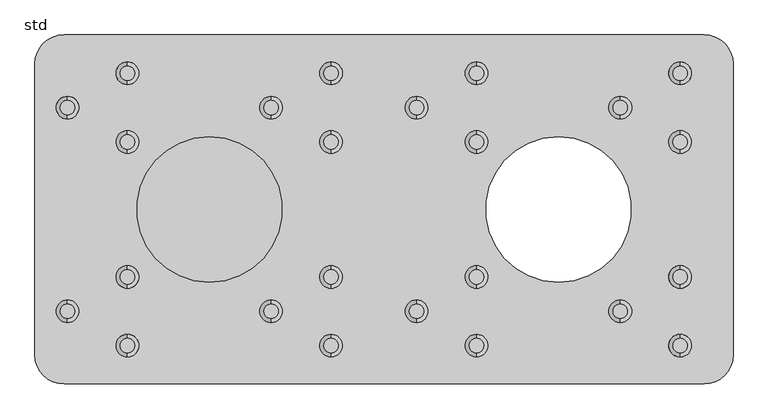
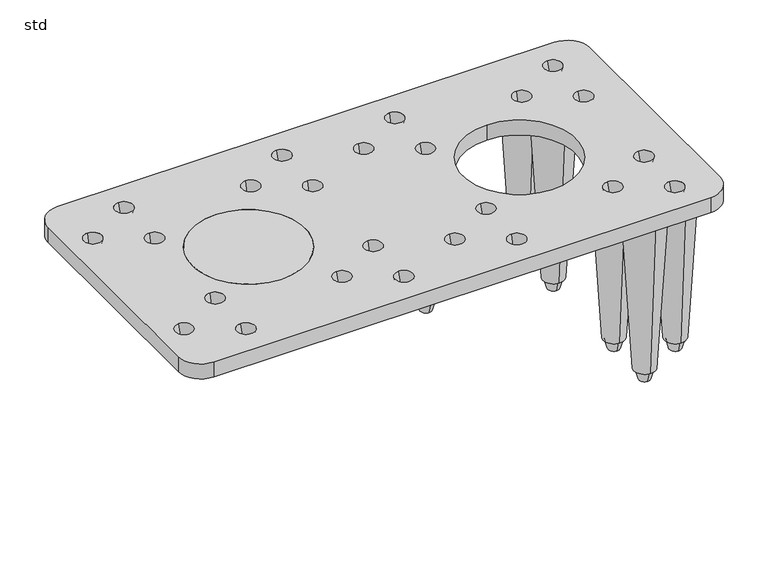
"""IFC4 building model written with IfcOpenShell, lengths in millimetres: unitary equipment geometry, Z_ME_UN_Aquacell_NG_Infiltration_Unit_Wavin_(nested) : std."""

from ifc_helpers import new_model, si_unit, point, frame, frame_2d, origin, place, context, project, spatial, polyline, circle_curve, trimmed, segment, composite_curve, outline, extrude, source, transform, mapped, element, save
from ifc_brep_helpers import plane_surface, cylinder_surface, revolved_surface, advanced_brep


def std_5641c3e3(model_context):
    return source(origin(), model_context, "Body", "SolidModel", [
        advanced_brep(
        [(794.0, 487.65, 175.0), (794.0, 462.35, 175.0), (794.0, 494.5, 200.0), (794.0, 455.5, 200.0)],
        [
            (0, 1, circle_curve(frame((794.0, 475.0, 175.0), z_axis=(0.0, 0.0, -1.0), x_axis=(0.0, 1.0, 0.0)), 12.65)),
            (1, 0, circle_curve(frame((794.0, 475.0, 175.0), z_axis=(0.0, 0.0, -1.0), x_axis=(0.0, -1.0, 0.0)), 12.65)),
            (2, 3, circle_curve(frame((794.0, 475.0, 200.0), z_axis=(0.0, 0.0, 1.0), x_axis=(0.0, -1.0, 0.0)), 19.5)),
            (3, 2, circle_curve(frame((794.0, 475.0, 200.0), z_axis=(0.0, 0.0, 1.0), x_axis=(0.0, 1.0, 0.0)), 19.5)),
            (3, 1),
            (0, 2),
        ],
        [
            plane_surface(frame((794.0, 475.0, 175.0), z_axis=(0.0, 0.0, -1.0), x_axis=(1.0, 0.0, 0.0))),
            plane_surface(frame((794.0, 475.0, 200.0), z_axis=(0.0, 0.0, 1.0), x_axis=(1.0, 0.0, 0.0))),
            revolved_surface(polyline([(794.0, 487.6499999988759, 175.0), (794.0, 494.5, 200.0)]), (794.0, 475.0, 128.8321168), (0.0, 0.0, 1.0)),
            revolved_surface(polyline([(794.0, 462.3500000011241, 175.0), (794.0, 455.5, 200.0)]), (794.0, 475.0, 128.8321168), (0.0, 0.0, 1.0)),
        ],
        [
            (0, [[1, 2]]),
            (1, [[3, 4]]),
            (2, [[-4, 5, -1, 6]]),
            (3, [[-3, -6, -2, -5]]),
        ],
    ),
        advanced_brep(
        [(794.0, 498.65, 200.0), (794.0, 451.35, 200.0), (794.0, 520.0, 565.0), (794.0, 430.0, 565.0)],
        [
            (0, 1, circle_curve(frame((794.0, 475.0, 200.0), z_axis=(0.0, 0.0, -1.0), x_axis=(0.0, 1.0, 0.0)), 23.65)),
            (1, 0, circle_curve(frame((794.0, 475.0, 200.0), z_axis=(0.0, 0.0, -1.0), x_axis=(0.0, -1.0, 0.0)), 23.65)),
            (2, 3, circle_curve(frame((794.0, 475.0, 565.0), z_axis=(0.0, 0.0, 1.0), x_axis=(0.0, -1.0, 0.0)), 45.0)),
            (3, 2, circle_curve(frame((794.0, 475.0, 565.0), z_axis=(0.0, 0.0, 1.0), x_axis=(0.0, 1.0, 0.0)), 45.0)),
            (3, 1),
            (0, 2),
        ],
        [
            plane_surface(frame((794.0, 475.0, 200.0), z_axis=(0.0, 0.0, -1.0), x_axis=(1.0, 0.0, 0.0))),
            plane_surface(frame((794.0, 475.0, 565.0), z_axis=(0.0, 0.0, 1.0), x_axis=(1.0, 0.0, 0.0))),
            revolved_surface(polyline([(794.0, 498.6500000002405, 199.99999999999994), (794.0, 520.0, 565.0)]), (794.0, 475.0, -204.3208431), (0.0, 0.0, 1.0)),
            revolved_surface(polyline([(794.0, 451.3499999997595, 199.99999999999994), (794.0, 430.0, 565.0)]), (794.0, 475.0, -204.3208431), (0.0, 0.0, 1.0)),
        ],
        [
            (0, [[1, 2]]),
            (1, [[3, 4]]),
            (2, [[-4, 5, -1, 6]]),
            (3, [[-3, -6, -2, -5]]),
        ],
    ),
        advanced_brep(
        [(1042.0, 78.65, 175.0), (1042.0, 53.35, 175.0), (1042.0, 85.5, 200.0), (1042.0, 46.5, 200.0)],
        [
            (0, 1, circle_curve(frame((1042.0, 66.0, 175.0), z_axis=(0.0, 0.0, -1.0), x_axis=(0.0, 1.0, 0.0)), 12.65)),
            (1, 0, circle_curve(frame((1042.0, 66.0, 175.0), z_axis=(0.0, 0.0, -1.0), x_axis=(0.0, -1.0, 0.0)), 12.65)),
            (2, 3, circle_curve(frame((1042.0, 66.0, 200.0), z_axis=(0.0, 0.0, 1.0), x_axis=(0.0, -1.0, 0.0)), 19.5)),
            (3, 2, circle_curve(frame((1042.0, 66.0, 200.0), z_axis=(0.0, 0.0, 1.0), x_axis=(0.0, 1.0, 0.0)), 19.5)),
            (3, 1),
            (0, 2),
        ],
        [
            plane_surface(frame((1042.0, 66.0, 175.0), z_axis=(0.0, 0.0, -1.0), x_axis=(1.0, 0.0, 0.0))),
            plane_surface(frame((1042.0, 66.0, 200.0), z_axis=(0.0, 0.0, 1.0), x_axis=(1.0, 0.0, 0.0))),
            revolved_surface(polyline([(1042.0, 78.6499999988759, 175.0), (1042.0, 85.5, 200.0)]), (1042.0, 66.0, 128.8321168), (0.0, 0.0, 1.0)),
            revolved_surface(polyline([(1042.0, 53.3500000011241, 175.0), (1042.0, 46.5, 200.0)]), (1042.0, 66.0, 128.8321168), (0.0, 0.0, 1.0)),
        ],
        [
            (0, [[1, 2]]),
            (1, [[3, 4]]),
            (2, [[-4, 5, -1, 6]]),
            (3, [[-3, -6, -2, -5]]),
        ],
    ),
        advanced_brep(
        [(1042.0, 196.65, 175.0), (1042.0, 171.35, 175.0), (1042.0, 203.5, 200.0), (1042.0, 164.5, 200.0)],
        [
            (0, 1, circle_curve(frame((1042.0, 184.0, 175.0), z_axis=(0.0, 0.0, -1.0), x_axis=(0.0, 1.0, 0.0)), 12.65)),
            (1, 0, circle_curve(frame((1042.0, 184.0, 175.0), z_axis=(0.0, 0.0, -1.0), x_axis=(0.0, -1.0, 0.0)), 12.65)),
            (2, 3, circle_curve(frame((1042.0, 184.0, 200.0), z_axis=(0.0, 0.0, 1.0), x_axis=(0.0, -1.0, 0.0)), 19.5)),
            (3, 2, circle_curve(frame((1042.0, 184.0, 200.0), z_axis=(0.0, 0.0, 1.0), x_axis=(0.0, 1.0, 0.0)), 19.5)),
            (3, 1),
            (0, 2),
        ],
        [
            plane_surface(frame((1042.0, 184.0, 175.0), z_axis=(0.0, 0.0, -1.0), x_axis=(1.0, 0.0, 0.0))),
            plane_surface(frame((1042.0, 184.0, 200.0), z_axis=(0.0, 0.0, 1.0), x_axis=(1.0, 0.0, 0.0))),
            revolved_surface(polyline([(1042.0, 196.6499999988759, 175.0), (1042.0, 203.5, 200.0)]), (1042.0, 184.0, 128.8321168), (0.0, 0.0, 1.0)),
            revolved_surface(polyline([(1042.0, 171.3500000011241, 175.0), (1042.0, 164.5, 200.0)]), (1042.0, 184.0, 128.8321168), (0.0, 0.0, 1.0)),
        ],
        [
            (0, [[1, 2]]),
            (1, [[3, 4]]),
            (2, [[-4, 5, -1, 6]]),
            (3, [[-3, -6, -2, -5]]),
        ],
    ),
        advanced_brep(
        [(1042.0, 89.65, 200.0), (1042.0, 42.35, 200.0), (1042.0, 111.0, 565.0), (1042.0, 21.0, 565.0)],
        [
            (0, 1, circle_curve(frame((1042.0, 66.0, 200.0), z_axis=(0.0, 0.0, -1.0), x_axis=(0.0, 1.0, 0.0)), 23.65)),
            (1, 0, circle_curve(frame((1042.0, 66.0, 200.0), z_axis=(0.0, 0.0, -1.0), x_axis=(0.0, -1.0, 0.0)), 23.65)),
            (2, 3, circle_curve(frame((1042.0, 66.0, 565.0), z_axis=(0.0, 0.0, 1.0), x_axis=(0.0, -1.0, 0.0)), 45.0)),
            (3, 2, circle_curve(frame((1042.0, 66.0, 565.0), z_axis=(0.0, 0.0, 1.0), x_axis=(0.0, 1.0, 0.0)), 45.0)),
            (3, 1),
            (0, 2),
        ],
        [
            plane_surface(frame((1042.0, 66.0, 200.0), z_axis=(0.0, 0.0, -1.0), x_axis=(1.0, 0.0, 0.0))),
            plane_surface(frame((1042.0, 66.0, 565.0), z_axis=(0.0, 0.0, 1.0), x_axis=(1.0, 0.0, 0.0))),
            revolved_surface(polyline([(1042.0, 89.65000000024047, 199.99999999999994), (1042.0, 111.0, 565.0)]), (1042.0, 66.0, -204.3208431), (0.0, 0.0, 1.0)),
            revolved_surface(polyline([(1042.0, 42.34999999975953, 199.99999999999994), (1042.0, 21.0, 565.0)]), (1042.0, 66.0, -204.3208431), (0.0, 0.0, 1.0)),
        ],
        [
            (0, [[1, 2]]),
            (1, [[3, 4]]),
            (2, [[-4, 5, -1, 6]]),
            (3, [[-3, -6, -2, -5]]),
        ],
    ),
        advanced_brep(
        [(1042.0, 207.65, 200.0), (1042.0, 160.35, 200.0), (1042.0, 229.0, 565.0), (1042.0, 139.0, 565.0)],
        [
            (0, 1, circle_curve(frame((1042.0, 184.0, 200.0), z_axis=(0.0, 0.0, -1.0), x_axis=(0.0, 1.0, 0.0)), 23.65)),
            (1, 0, circle_curve(frame((1042.0, 184.0, 200.0), z_axis=(0.0, 0.0, -1.0), x_axis=(0.0, -1.0, 0.0)), 23.65)),
            (2, 3, circle_curve(frame((1042.0, 184.0, 565.0), z_axis=(0.0, 0.0, 1.0), x_axis=(0.0, -1.0, 0.0)), 45.0)),
            (3, 2, circle_curve(frame((1042.0, 184.0, 565.0), z_axis=(0.0, 0.0, 1.0), x_axis=(0.0, 1.0, 0.0)), 45.0)),
            (3, 1),
            (0, 2),
        ],
        [
            plane_surface(frame((1042.0, 184.0, 200.0), z_axis=(0.0, 0.0, -1.0), x_axis=(1.0, 0.0, 0.0))),
            plane_surface(frame((1042.0, 184.0, 565.0), z_axis=(0.0, 0.0, 1.0), x_axis=(1.0, 0.0, 0.0))),
            revolved_surface(polyline([(1042.0, 207.65000000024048, 199.99999999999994), (1042.0, 229.0, 565.0)]), (1042.0, 184.0, -204.3208431), (0.0, 0.0, 1.0)),
            revolved_surface(polyline([(1042.0, 160.34999999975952, 199.99999999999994), (1042.0, 139.0, 565.0)]), (1042.0, 184.0, -204.3208431), (0.0, 0.0, 1.0)),
        ],
        [
            (0, [[1, 2]]),
            (1, [[3, 4]]),
            (2, [[-4, 5, -1, 6]]),
            (3, [[-3, -6, -2, -5]]),
        ],
    ),
        advanced_brep(
        [(1144.0, 137.65, 175.0), (1144.0, 112.35, 175.0), (1144.0, 144.5, 200.0), (1144.0, 105.5, 200.0)],
        [
            (0, 1, circle_curve(frame((1144.0, 125.0, 175.0), z_axis=(0.0, 0.0, -1.0), x_axis=(0.0, 1.0, 0.0)), 12.65)),
            (1, 0, circle_curve(frame((1144.0, 125.0, 175.0), z_axis=(0.0, 0.0, -1.0), x_axis=(0.0, -1.0, 0.0)), 12.65)),
            (2, 3, circle_curve(frame((1144.0, 125.0, 200.0), z_axis=(0.0, 0.0, 1.0), x_axis=(0.0, -1.0, 0.0)), 19.5)),
            (3, 2, circle_curve(frame((1144.0, 125.0, 200.0), z_axis=(0.0, 0.0, 1.0), x_axis=(0.0, 1.0, 0.0)), 19.5)),
            (3, 1),
            (0, 2),
        ],
        [
            plane_surface(frame((1144.0, 125.0, 175.0), z_axis=(0.0, 0.0, -1.0), x_axis=(1.0, 0.0, 0.0))),
            plane_surface(frame((1144.0, 125.0, 200.0), z_axis=(0.0, 0.0, 1.0), x_axis=(1.0, 0.0, 0.0))),
            revolved_surface(polyline([(1144.0, 137.6499999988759, 175.0), (1144.0, 144.5, 200.0)]), (1144.0, 125.0, 128.8321168), (0.0, 0.0, 1.0)),
            revolved_surface(polyline([(1144.0, 112.3500000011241, 175.0), (1144.0, 105.5, 200.0)]), (1144.0, 125.0, 128.8321168), (0.0, 0.0, 1.0)),
        ],
        [
            (0, [[1, 2]]),
            (1, [[3, 4]]),
            (2, [[-4, 5, -1, 6]]),
            (3, [[-3, -6, -2, -5]]),
        ],
    ),
        advanced_brep(
        [(1144.0, 148.65, 200.0), (1144.0, 101.35, 200.0), (1144.0, 170.0, 565.0), (1144.0, 80.0, 565.0)],
        [
            (0, 1, circle_curve(frame((1144.0, 125.0, 200.0), z_axis=(0.0, 0.0, -1.0), x_axis=(0.0, 1.0, 0.0)), 23.65)),
            (1, 0, circle_curve(frame((1144.0, 125.0, 200.0), z_axis=(0.0, 0.0, -1.0), x_axis=(0.0, -1.0, 0.0)), 23.65)),
            (2, 3, circle_curve(frame((1144.0, 125.0, 565.0), z_axis=(0.0, 0.0, 1.0), x_axis=(0.0, -1.0, 0.0)), 45.0)),
            (3, 2, circle_curve(frame((1144.0, 125.0, 565.0), z_axis=(0.0, 0.0, 1.0), x_axis=(0.0, 1.0, 0.0)), 45.0)),
            (3, 1),
            (0, 2),
        ],
        [
            plane_surface(frame((1144.0, 125.0, 200.0), z_axis=(0.0, 0.0, -1.0), x_axis=(1.0, 0.0, 0.0))),
            plane_surface(frame((1144.0, 125.0, 565.0), z_axis=(0.0, 0.0, 1.0), x_axis=(1.0, 0.0, 0.0))),
            revolved_surface(polyline([(1144.0, 148.65000000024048, 199.99999999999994), (1144.0, 170.0, 565.0)]), (1144.0, 125.0, -204.3208431), (0.0, 0.0, 1.0)),
            revolved_surface(polyline([(1144.0, 101.34999999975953, 199.99999999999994), (1144.0, 80.0, 565.0)]), (1144.0, 125.0, -204.3208431), (0.0, 0.0, 1.0)),
        ],
        [
            (0, [[1, 2]]),
            (1, [[3, 4]]),
            (2, [[-4, 5, -1, 6]]),
            (3, [[-3, -6, -2, -5]]),
        ],
    ),
        advanced_brep(
        [(1042.0, 428.65, 175.0), (1042.0, 403.35, 175.0), (1042.0, 435.5, 200.0), (1042.0, 396.5, 200.0)],
        [
            (0, 1, circle_curve(frame((1042.0, 416.0, 175.0), z_axis=(0.0, 0.0, -1.0), x_axis=(0.0, 1.0, 0.0)), 12.65)),
            (1, 0, circle_curve(frame((1042.0, 416.0, 175.0), z_axis=(0.0, 0.0, -1.0), x_axis=(0.0, -1.0, 0.0)), 12.65)),
            (2, 3, circle_curve(frame((1042.0, 416.0, 200.0), z_axis=(0.0, 0.0, 1.0), x_axis=(0.0, -1.0, 0.0)), 19.5)),
            (3, 2, circle_curve(frame((1042.0, 416.0, 200.0), z_axis=(0.0, 0.0, 1.0), x_axis=(0.0, 1.0, 0.0)), 19.5)),
            (3, 1),
            (0, 2),
        ],
        [
            plane_surface(frame((1042.0, 416.0, 175.0), z_axis=(0.0, 0.0, -1.0), x_axis=(1.0, 0.0, 0.0))),
            plane_surface(frame((1042.0, 416.0, 200.0), z_axis=(0.0, 0.0, 1.0), x_axis=(1.0, 0.0, 0.0))),
            revolved_surface(polyline([(1042.0, 428.6499999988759, 175.0), (1042.0, 435.5, 200.0)]), (1042.0, 416.0, 128.8321168), (0.0, 0.0, 1.0)),
            revolved_surface(polyline([(1042.0, 403.3500000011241, 175.0), (1042.0, 396.5, 200.0)]), (1042.0, 416.0, 128.8321168), (0.0, 0.0, 1.0)),
        ],
        [
            (0, [[1, 2]]),
            (1, [[3, 4]]),
            (2, [[-4, 5, -1, 6]]),
            (3, [[-3, -6, -2, -5]]),
        ],
    ),
        advanced_brep(
        [(1042.0, 546.65, 175.0), (1042.0, 521.35, 175.0), (1042.0, 553.5, 200.0), (1042.0, 514.5, 200.0)],
        [
            (0, 1, circle_curve(frame((1042.0, 534.0, 175.0), z_axis=(0.0, 0.0, -1.0), x_axis=(0.0, 1.0, 0.0)), 12.65)),
            (1, 0, circle_curve(frame((1042.0, 534.0, 175.0), z_axis=(0.0, 0.0, -1.0), x_axis=(0.0, -1.0, 0.0)), 12.65)),
            (2, 3, circle_curve(frame((1042.0, 534.0, 200.0), z_axis=(0.0, 0.0, 1.0), x_axis=(0.0, -1.0, 0.0)), 19.5)),
            (3, 2, circle_curve(frame((1042.0, 534.0, 200.0), z_axis=(0.0, 0.0, 1.0), x_axis=(0.0, 1.0, 0.0)), 19.5)),
            (3, 1),
            (0, 2),
        ],
        [
            plane_surface(frame((1042.0, 534.0, 175.0), z_axis=(0.0, 0.0, -1.0), x_axis=(1.0, 0.0, 0.0))),
            plane_surface(frame((1042.0, 534.0, 200.0), z_axis=(0.0, 0.0, 1.0), x_axis=(1.0, 0.0, 0.0))),
            revolved_surface(polyline([(1042.0, 546.6499999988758, 175.0), (1042.0, 553.5, 200.0)]), (1042.0, 534.0, 128.8321168), (0.0, 0.0, 1.0)),
            revolved_surface(polyline([(1042.0, 521.3500000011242, 175.0), (1042.0, 514.5, 200.0)]), (1042.0, 534.0, 128.8321168), (0.0, 0.0, 1.0)),
        ],
        [
            (0, [[1, 2]]),
            (1, [[3, 4]]),
            (2, [[-4, 5, -1, 6]]),
            (3, [[-3, -6, -2, -5]]),
        ],
    ),
        advanced_brep(
        [(1042.0, 439.65, 200.0), (1042.0, 392.35, 200.0), (1042.0, 461.0, 565.0), (1042.0, 371.0, 565.0)],
        [
            (0, 1, circle_curve(frame((1042.0, 416.0, 200.0), z_axis=(0.0, 0.0, -1.0), x_axis=(0.0, 1.0, 0.0)), 23.65)),
            (1, 0, circle_curve(frame((1042.0, 416.0, 200.0), z_axis=(0.0, 0.0, -1.0), x_axis=(0.0, -1.0, 0.0)), 23.65)),
            (2, 3, circle_curve(frame((1042.0, 416.0, 565.0), z_axis=(0.0, 0.0, 1.0), x_axis=(0.0, -1.0, 0.0)), 45.0)),
            (3, 2, circle_curve(frame((1042.0, 416.0, 565.0), z_axis=(0.0, 0.0, 1.0), x_axis=(0.0, 1.0, 0.0)), 45.0)),
            (3, 1),
            (0, 2),
        ],
        [
            plane_surface(frame((1042.0, 416.0, 200.0), z_axis=(0.0, 0.0, -1.0), x_axis=(1.0, 0.0, 0.0))),
            plane_surface(frame((1042.0, 416.0, 565.0), z_axis=(0.0, 0.0, 1.0), x_axis=(1.0, 0.0, 0.0))),
            revolved_surface(polyline([(1042.0, 439.6500000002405, 199.99999999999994), (1042.0, 461.0, 565.0)]), (1042.0, 416.0, -204.3208431), (0.0, 0.0, 1.0)),
            revolved_surface(polyline([(1042.0, 392.3499999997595, 199.99999999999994), (1042.0, 371.0, 565.0)]), (1042.0, 416.0, -204.3208431), (0.0, 0.0, 1.0)),
        ],
        [
            (0, [[1, 2]]),
            (1, [[3, 4]]),
            (2, [[-4, 5, -1, 6]]),
            (3, [[-3, -6, -2, -5]]),
        ],
    ),
        advanced_brep(
        [(1042.0, 557.65, 200.0), (1042.0, 510.35, 200.0), (1042.0, 579.0, 565.0), (1042.0, 489.0, 565.0)],
        [
            (0, 1, circle_curve(frame((1042.0, 534.0, 200.0), z_axis=(0.0, 0.0, -1.0), x_axis=(0.0, 1.0, 0.0)), 23.65)),
            (1, 0, circle_curve(frame((1042.0, 534.0, 200.0), z_axis=(0.0, 0.0, -1.0), x_axis=(0.0, -1.0, 0.0)), 23.65)),
            (2, 3, circle_curve(frame((1042.0, 534.0, 565.0), z_axis=(0.0, 0.0, 1.0), x_axis=(0.0, -1.0, 0.0)), 45.0)),
            (3, 2, circle_curve(frame((1042.0, 534.0, 565.0), z_axis=(0.0, 0.0, 1.0), x_axis=(0.0, 1.0, 0.0)), 45.0)),
            (3, 1),
            (0, 2),
        ],
        [
            plane_surface(frame((1042.0, 534.0, 200.0), z_axis=(0.0, 0.0, -1.0), x_axis=(1.0, 0.0, 0.0))),
            plane_surface(frame((1042.0, 534.0, 565.0), z_axis=(0.0, 0.0, 1.0), x_axis=(1.0, 0.0, 0.0))),
            revolved_surface(polyline([(1042.0, 557.6500000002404, 199.99999999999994), (1042.0, 579.0, 565.0)]), (1042.0, 534.0, -204.3208431), (0.0, 0.0, 1.0)),
            revolved_surface(polyline([(1042.0, 510.3499999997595, 199.99999999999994), (1042.0, 489.0, 565.0)]), (1042.0, 534.0, -204.3208431), (0.0, 0.0, 1.0)),
        ],
        [
            (0, [[1, 2]]),
            (1, [[3, 4]]),
            (2, [[-4, 5, -1, 6]]),
            (3, [[-3, -6, -2, -5]]),
        ],
    ),
        extrude(outline(composite_curve([segment(trimmed(circle_curve(frame_2d((300.0, 300.0)), 125.0), [point((300.0, 425.0))], [point((300.0, 175.0))], False, "CARTESIAN"), True, "CONTINUOUS"), segment(trimmed(circle_curve(frame_2d((300.0, 300.0)), 125.0), [point((300.0, 175.0))], [point((300.0, 425.0))], False, "CARTESIAN"), True, "CONTINUOUS")], self_intersect=False)), frame((0.0, 0.0, 565.0), z_axis=(0.0, 0.0, 1.0), x_axis=(1.0, 0.0, 0.0)), (0.0, 0.0, 1.0), 35.0),
        advanced_brep(
        [(1150.0, 600.0, 565.0), (1200.0, 550.0, 565.0), (1200.0, 50.0, 565.0), (1150.0, 0.0, 565.0), (50.0, 0.0, 565.0), (0.0, 50.0, 565.0), (0.0, 550.0, 565.0), (50.0, 600.0, 565.0), (300.0, 425.0, 565.0), (300.0, 175.0, 565.0), (900.0, 425.0, 565.0), (900.0, 175.0, 565.0), (1150.0, 600.0, 600.0), (50.0, 600.0, 600.0), (0.0, 550.0, 600.0), (0.0, 50.0, 600.0), (50.0, 0.0, 600.0), (1150.0, 0.0, 600.0), (1200.0, 50.0, 600.0), (1200.0, 550.0, 600.0), (300.0, 425.0, 600.0), (300.0, 175.0, 600.0), (406.0, 494.5, 600.0), (406.0, 455.5, 600.0), (509.0, 553.5, 600.0), (509.0, 514.5, 600.0), (509.0, 435.5, 600.0), (509.0, 396.5, 600.0), (656.0, 494.5, 600.0), (656.0, 455.5, 600.0), (759.0, 553.5, 600.0), (759.0, 514.5, 600.0), (759.0, 435.5, 600.0), (759.0, 396.5, 600.0), (1006.0, 494.5, 600.0), (1006.0, 455.5, 600.0), (1109.0, 553.5, 600.0), (1109.0, 514.5, 600.0), (1109.0, 435.5, 600.0), (1109.0, 396.5, 600.0), (1006.0, 144.5, 600.0), (1006.0, 105.5, 600.0), (1109.0, 203.5, 600.0), (1109.0, 164.5, 600.0), (1109.0, 85.5, 600.0), (1109.0, 46.5, 600.0), (656.0, 144.5, 600.0), (656.0, 105.5, 600.0), (759.0, 203.5, 600.0), (759.0, 164.5, 600.0), (759.0, 85.5, 600.0), (759.0, 46.5, 600.0), (406.0, 144.5, 600.0), (406.0, 105.5, 600.0), (509.0, 203.5, 600.0), (509.0, 164.5, 600.0), (509.0, 85.5, 600.0), (509.0, 46.5, 600.0), (56.0, 144.5, 600.0), (56.0, 105.5, 600.0), (159.0, 203.5, 600.0), (159.0, 164.5, 600.0), (159.0, 85.5, 600.0), (159.0, 46.5, 600.0), (159.0, 553.5, 600.0), (159.0, 514.5, 600.0), (56.0, 494.5, 600.0), (56.0, 455.5, 600.0), (159.0, 435.5, 600.0), (159.0, 396.5, 600.0), (900.0, 175.0, 600.0), (900.0, 425.0, 600.0), (406.0, 487.65, 575.0), (406.0, 462.35, 575.0), (509.0, 546.65, 575.0), (509.0, 521.35, 575.0), (509.0, 428.65, 575.0), (509.0, 403.35, 575.0), (656.0, 487.65, 575.0), (656.0, 462.35, 575.0), (759.0, 546.65, 575.0), (759.0, 521.35, 575.0), (759.0, 428.65, 575.0), (759.0, 403.35, 575.0), (1006.0, 487.65, 575.0), (1006.0, 462.35, 575.0), (1109.0, 546.65, 575.0), (1109.0, 521.35, 575.0), (1109.0, 428.65, 575.0), (1109.0, 403.35, 575.0), (1006.0, 137.65, 575.0), (1006.0, 112.35, 575.0), (1109.0, 196.65, 575.0), (1109.0, 171.35, 575.0), (1109.0, 78.65, 575.0), (1109.0, 53.35, 575.0), (656.0, 137.65, 575.0), (656.0, 112.35, 575.0), (759.0, 196.65, 575.0), (759.0, 171.35, 575.0), (759.0, 78.65, 575.0), (759.0, 53.35, 575.0), (406.0, 137.65, 575.0), (406.0, 112.35, 575.0), (509.0, 196.65, 575.0), (509.0, 171.35, 575.0), (509.0, 78.65, 575.0), (509.0, 53.35, 575.0), (56.0, 137.65, 575.0), (56.0, 112.35, 575.0), (159.0, 196.65, 575.0), (159.0, 171.35, 575.0), (159.0, 78.65, 575.0), (159.0, 53.35, 575.0), (159.0, 546.65, 575.0), (159.0, 521.35, 575.0), (56.0, 487.65, 575.0), (56.0, 462.35, 575.0), (159.0, 428.65, 575.0), (159.0, 403.35, 575.0)],
        [
            (0, 1, circle_curve(frame((1150.0, 550.0, 565.0), z_axis=(0.0, 0.0, -1.0), x_axis=(0.0, -1.0, 0.0)), 50.0)),
            (1, 2),
            (2, 3, circle_curve(frame((1150.0, 50.0, 565.0), z_axis=(0.0, 0.0, -1.0), x_axis=(0.0, -1.0, 0.0)), 50.0)),
            (3, 4),
            (4, 5, circle_curve(frame((50.0, 50.0, 565.0), z_axis=(0.0, 0.0, -1.0), x_axis=(0.0, -1.0, 0.0)), 50.0)),
            (5, 6),
            (6, 7, circle_curve(frame((50.0, 550.0, 565.0), z_axis=(0.0, 0.0, -1.0), x_axis=(0.0, -1.0, 0.0)), 50.0)),
            (7, 0),
            (8, 9, circle_curve(frame((300.0, 300.0, 565.0), z_axis=(0.0, 0.0, 1.0), x_axis=(0.0, -1.0, 0.0)), 125.0)),
            (9, 8, circle_curve(frame((300.0, 300.0, 565.0), z_axis=(0.0, 0.0, 1.0), x_axis=(0.0, -1.0, 0.0)), 125.0)),
            (10, 11, circle_curve(frame((900.0, 300.0, 565.0), z_axis=(0.0, 0.0, 1.0), x_axis=(0.0, -1.0, 0.0)), 125.0)),
            (11, 10, circle_curve(frame((900.0, 300.0, 565.0), z_axis=(0.0, 0.0, 1.0), x_axis=(0.0, -1.0, 0.0)), 125.0)),
            (12, 13),
            (13, 14, circle_curve(frame((50.0, 550.0, 600.0), z_axis=(0.0, 0.0, 1.0), x_axis=(0.0, -1.0, 0.0)), 50.0)),
            (14, 15),
            (15, 16, circle_curve(frame((50.0, 50.0, 600.0), z_axis=(0.0, 0.0, 1.0), x_axis=(0.0, -1.0, 0.0)), 50.0)),
            (16, 17),
            (17, 18, circle_curve(frame((1150.0, 50.0, 600.0), z_axis=(0.0, 0.0, 1.0), x_axis=(0.0, -1.0, 0.0)), 50.0)),
            (18, 19),
            (19, 12, circle_curve(frame((1150.0, 550.0, 600.0), z_axis=(0.0, 0.0, 1.0), x_axis=(0.0, -1.0, 0.0)), 50.0)),
            (20, 21, circle_curve(frame((300.0, 300.0, 600.0), z_axis=(0.0, 0.0, -1.0), x_axis=(0.0, -1.0, 0.0)), 125.0)),
            (21, 20, circle_curve(frame((300.0, 300.0, 600.0), z_axis=(0.0, 0.0, -1.0), x_axis=(0.0, -1.0, 0.0)), 125.0)),
            (22, 23, circle_curve(frame((406.0, 475.0, 600.0), z_axis=(0.0, 0.0, -1.0), x_axis=(0.0, 1.0, 0.0)), 19.5)),
            (23, 22, circle_curve(frame((406.0, 475.0, 600.0), z_axis=(0.0, 0.0, -1.0), x_axis=(0.0, -1.0, 0.0)), 19.5)),
            (24, 25, circle_curve(frame((509.0, 534.0, 600.0), z_axis=(0.0, 0.0, -1.0), x_axis=(0.0, 1.0, 0.0)), 19.5)),
            (25, 24, circle_curve(frame((509.0, 534.0, 600.0), z_axis=(0.0, 0.0, -1.0), x_axis=(0.0, -1.0, 0.0)), 19.5)),
            (26, 27, circle_curve(frame((509.0, 416.0, 600.0), z_axis=(0.0, 0.0, -1.0), x_axis=(0.0, 1.0, 0.0)), 19.5)),
            (27, 26, circle_curve(frame((509.0, 416.0, 600.0), z_axis=(0.0, 0.0, -1.0), x_axis=(0.0, -1.0, 0.0)), 19.5)),
            (28, 29, circle_curve(frame((656.0, 475.0, 600.0), z_axis=(0.0, 0.0, -1.0), x_axis=(0.0, 1.0, 0.0)), 19.5)),
            (29, 28, circle_curve(frame((656.0, 475.0, 600.0), z_axis=(0.0, 0.0, -1.0), x_axis=(0.0, -1.0, 0.0)), 19.5)),
            (30, 31, circle_curve(frame((759.0, 534.0, 600.0), z_axis=(0.0, 0.0, -1.0), x_axis=(0.0, 1.0, 0.0)), 19.5)),
            (31, 30, circle_curve(frame((759.0, 534.0, 600.0), z_axis=(0.0, 0.0, -1.0), x_axis=(0.0, -1.0, 0.0)), 19.5)),
            (32, 33, circle_curve(frame((759.0, 416.0, 600.0), z_axis=(0.0, 0.0, -1.0), x_axis=(0.0, 1.0, 0.0)), 19.5)),
            (33, 32, circle_curve(frame((759.0, 416.0, 600.0), z_axis=(0.0, 0.0, -1.0), x_axis=(0.0, -1.0, 0.0)), 19.5)),
            (34, 35, circle_curve(frame((1006.0, 475.0, 600.0), z_axis=(0.0, 0.0, -1.0), x_axis=(0.0, 1.0, 0.0)), 19.5)),
            (35, 34, circle_curve(frame((1006.0, 475.0, 600.0), z_axis=(0.0, 0.0, -1.0), x_axis=(0.0, -1.0, 0.0)), 19.5)),
            (36, 37, circle_curve(frame((1109.0, 534.0, 600.0), z_axis=(0.0, 0.0, -1.0), x_axis=(0.0, 1.0, 0.0)), 19.5)),
            (37, 36, circle_curve(frame((1109.0, 534.0, 600.0), z_axis=(0.0, 0.0, -1.0), x_axis=(0.0, -1.0, 0.0)), 19.5)),
            (38, 39, circle_curve(frame((1109.0, 416.0, 600.0), z_axis=(0.0, 0.0, -1.0), x_axis=(0.0, 1.0, 0.0)), 19.5)),
            (39, 38, circle_curve(frame((1109.0, 416.0, 600.0), z_axis=(0.0, 0.0, -1.0), x_axis=(0.0, -1.0, 0.0)), 19.5)),
            (40, 41, circle_curve(frame((1006.0, 125.0, 600.0), z_axis=(0.0, 0.0, -1.0), x_axis=(0.0, 1.0, 0.0)), 19.5)),
            (41, 40, circle_curve(frame((1006.0, 125.0, 600.0), z_axis=(0.0, 0.0, -1.0), x_axis=(0.0, -1.0, 0.0)), 19.5)),
            (42, 43, circle_curve(frame((1109.0, 184.0, 600.0), z_axis=(0.0, 0.0, -1.0), x_axis=(0.0, 1.0, 0.0)), 19.5)),
            (43, 42, circle_curve(frame((1109.0, 184.0, 600.0), z_axis=(0.0, 0.0, -1.0), x_axis=(0.0, -1.0, 0.0)), 19.5)),
            (44, 45, circle_curve(frame((1109.0, 66.0, 600.0), z_axis=(0.0, 0.0, -1.0), x_axis=(0.0, 1.0, 0.0)), 19.5)),
            (45, 44, circle_curve(frame((1109.0, 66.0, 600.0), z_axis=(0.0, 0.0, -1.0), x_axis=(0.0, -1.0, 0.0)), 19.5)),
            (46, 47, circle_curve(frame((656.0, 125.0, 600.0), z_axis=(0.0, 0.0, -1.0), x_axis=(0.0, 1.0, 0.0)), 19.5)),
            (47, 46, circle_curve(frame((656.0, 125.0, 600.0), z_axis=(0.0, 0.0, -1.0), x_axis=(0.0, -1.0, 0.0)), 19.5)),
            (48, 49, circle_curve(frame((759.0, 184.0, 600.0), z_axis=(0.0, 0.0, -1.0), x_axis=(0.0, 1.0, 0.0)), 19.5)),
            (49, 48, circle_curve(frame((759.0, 184.0, 600.0), z_axis=(0.0, 0.0, -1.0), x_axis=(0.0, -1.0, 0.0)), 19.5)),
            (50, 51, circle_curve(frame((759.0, 66.0, 600.0), z_axis=(0.0, 0.0, -1.0), x_axis=(0.0, 1.0, 0.0)), 19.5)),
            (51, 50, circle_curve(frame((759.0, 66.0, 600.0), z_axis=(0.0, 0.0, -1.0), x_axis=(0.0, -1.0, 0.0)), 19.5)),
            (52, 53, circle_curve(frame((406.0, 125.0, 600.0), z_axis=(0.0, 0.0, -1.0), x_axis=(0.0, 1.0, 0.0)), 19.5)),
            (53, 52, circle_curve(frame((406.0, 125.0, 600.0), z_axis=(0.0, 0.0, -1.0), x_axis=(0.0, -1.0, 0.0)), 19.5)),
            (54, 55, circle_curve(frame((509.0, 184.0, 600.0), z_axis=(0.0, 0.0, -1.0), x_axis=(0.0, 1.0, 0.0)), 19.5)),
            (55, 54, circle_curve(frame((509.0, 184.0, 600.0), z_axis=(0.0, 0.0, -1.0), x_axis=(0.0, -1.0, 0.0)), 19.5)),
            (56, 57, circle_curve(frame((509.0, 66.0, 600.0), z_axis=(0.0, 0.0, -1.0), x_axis=(0.0, 1.0, 0.0)), 19.5)),
            (57, 56, circle_curve(frame((509.0, 66.0, 600.0), z_axis=(0.0, 0.0, -1.0), x_axis=(0.0, -1.0, 0.0)), 19.5)),
            (58, 59, circle_curve(frame((56.0, 125.0, 600.0), z_axis=(0.0, 0.0, -1.0), x_axis=(0.0, 1.0, 0.0)), 19.5)),
            (59, 58, circle_curve(frame((56.0, 125.0, 600.0), z_axis=(0.0, 0.0, -1.0), x_axis=(0.0, -1.0, 0.0)), 19.5)),
            (60, 61, circle_curve(frame((159.0, 184.0, 600.0), z_axis=(0.0, 0.0, -1.0), x_axis=(0.0, 1.0, 0.0)), 19.5)),
            (61, 60, circle_curve(frame((159.0, 184.0, 600.0), z_axis=(0.0, 0.0, -1.0), x_axis=(0.0, -1.0, 0.0)), 19.5)),
            (62, 63, circle_curve(frame((159.0, 66.0, 600.0), z_axis=(0.0, 0.0, -1.0), x_axis=(0.0, 1.0, 0.0)), 19.5)),
            (63, 62, circle_curve(frame((159.0, 66.0, 600.0), z_axis=(0.0, 0.0, -1.0), x_axis=(0.0, -1.0, 0.0)), 19.5)),
            (64, 65, circle_curve(frame((159.0, 534.0, 600.0), z_axis=(0.0, 0.0, -1.0), x_axis=(0.0, 1.0, 0.0)), 19.5)),
            (65, 64, circle_curve(frame((159.0, 534.0, 600.0), z_axis=(0.0, 0.0, -1.0), x_axis=(0.0, -1.0, 0.0)), 19.5)),
            (66, 67, circle_curve(frame((56.0, 475.0, 600.0), z_axis=(0.0, 0.0, -1.0), x_axis=(0.0, 1.0, 0.0)), 19.5)),
            (67, 66, circle_curve(frame((56.0, 475.0, 600.0), z_axis=(0.0, 0.0, -1.0), x_axis=(0.0, -1.0, 0.0)), 19.5)),
            (68, 69, circle_curve(frame((159.0, 416.0, 600.0), z_axis=(0.0, 0.0, -1.0), x_axis=(0.0, 1.0, 0.0)), 19.5)),
            (69, 68, circle_curve(frame((159.0, 416.0, 600.0), z_axis=(0.0, 0.0, -1.0), x_axis=(0.0, -1.0, 0.0)), 19.5)),
            (70, 71, circle_curve(frame((900.0, 300.0, 600.0), z_axis=(0.0, 0.0, -1.0), x_axis=(0.0, -1.0, 0.0)), 125.0)),
            (71, 70, circle_curve(frame((900.0, 300.0, 600.0), z_axis=(0.0, 0.0, -1.0), x_axis=(0.0, -1.0, 0.0)), 125.0)),
            (7, 13),
            (12, 0),
            (6, 14),
            (5, 15),
            (4, 16),
            (3, 17),
            (2, 18),
            (1, 19),
            (9, 21),
            (20, 8),
            (72, 73, circle_curve(frame((406.0, 475.0, 575.0), z_axis=(0.0, 0.0, 1.0), x_axis=(0.0, -1.0, 0.0)), 12.65)),
            (73, 72, circle_curve(frame((406.0, 475.0, 575.0), z_axis=(0.0, 0.0, 1.0), x_axis=(0.0, 1.0, 0.0)), 12.65)),
            (73, 23),
            (22, 72),
            (74, 75, circle_curve(frame((509.0, 534.0, 575.0), z_axis=(0.0, 0.0, 1.0), x_axis=(0.0, -1.0, 0.0)), 12.65)),
            (75, 74, circle_curve(frame((509.0, 534.0, 575.0), z_axis=(0.0, 0.0, 1.0), x_axis=(0.0, 1.0, 0.0)), 12.65)),
            (75, 25),
            (24, 74),
            (76, 77, circle_curve(frame((509.0, 416.0, 575.0), z_axis=(0.0, 0.0, 1.0), x_axis=(0.0, -1.0, 0.0)), 12.65)),
            (77, 76, circle_curve(frame((509.0, 416.0, 575.0), z_axis=(0.0, 0.0, 1.0), x_axis=(0.0, 1.0, 0.0)), 12.65)),
            (77, 27),
            (26, 76),
            (78, 79, circle_curve(frame((656.0, 475.0, 575.0), z_axis=(0.0, 0.0, 1.0), x_axis=(0.0, -1.0, 0.0)), 12.65)),
            (79, 78, circle_curve(frame((656.0, 475.0, 575.0), z_axis=(0.0, 0.0, 1.0), x_axis=(0.0, 1.0, 0.0)), 12.65)),
            (79, 29),
            (28, 78),
            (80, 81, circle_curve(frame((759.0, 534.0, 575.0), z_axis=(0.0, 0.0, 1.0), x_axis=(0.0, -1.0, 0.0)), 12.65)),
            (81, 80, circle_curve(frame((759.0, 534.0, 575.0), z_axis=(0.0, 0.0, 1.0), x_axis=(0.0, 1.0, 0.0)), 12.65)),
            (81, 31),
            (30, 80),
            (82, 83, circle_curve(frame((759.0, 416.0, 575.0), z_axis=(0.0, 0.0, 1.0), x_axis=(0.0, -1.0, 0.0)), 12.65)),
            (83, 82, circle_curve(frame((759.0, 416.0, 575.0), z_axis=(0.0, 0.0, 1.0), x_axis=(0.0, 1.0, 0.0)), 12.65)),
            (83, 33),
            (32, 82),
            (84, 85, circle_curve(frame((1006.0, 475.0, 575.0), z_axis=(0.0, 0.0, 1.0), x_axis=(0.0, -1.0, 0.0)), 12.65)),
            (85, 84, circle_curve(frame((1006.0, 475.0, 575.0), z_axis=(0.0, 0.0, 1.0), x_axis=(0.0, 1.0, 0.0)), 12.65)),
            (85, 35),
            (34, 84),
            (86, 87, circle_curve(frame((1109.0, 534.0, 575.0), z_axis=(0.0, 0.0, 1.0), x_axis=(0.0, -1.0, 0.0)), 12.65)),
            (87, 86, circle_curve(frame((1109.0, 534.0, 575.0), z_axis=(0.0, 0.0, 1.0), x_axis=(0.0, 1.0, 0.0)), 12.65)),
            (87, 37),
            (36, 86),
            (88, 89, circle_curve(frame((1109.0, 416.0, 575.0), z_axis=(0.0, 0.0, 1.0), x_axis=(0.0, -1.0, 0.0)), 12.65)),
            (89, 88, circle_curve(frame((1109.0, 416.0, 575.0), z_axis=(0.0, 0.0, 1.0), x_axis=(0.0, 1.0, 0.0)), 12.65)),
            (89, 39),
            (38, 88),
            (90, 91, circle_curve(frame((1006.0, 125.0, 575.0), z_axis=(0.0, 0.0, 1.0), x_axis=(0.0, -1.0, 0.0)), 12.65)),
            (91, 90, circle_curve(frame((1006.0, 125.0, 575.0), z_axis=(0.0, 0.0, 1.0), x_axis=(0.0, 1.0, 0.0)), 12.65)),
            (91, 41),
            (40, 90),
            (92, 93, circle_curve(frame((1109.0, 184.0, 575.0), z_axis=(0.0, 0.0, 1.0), x_axis=(0.0, -1.0, 0.0)), 12.65)),
            (93, 92, circle_curve(frame((1109.0, 184.0, 575.0), z_axis=(0.0, 0.0, 1.0), x_axis=(0.0, 1.0, 0.0)), 12.65)),
            (93, 43),
            (42, 92),
            (94, 95, circle_curve(frame((1109.0, 66.0, 575.0), z_axis=(0.0, 0.0, 1.0), x_axis=(0.0, -1.0, 0.0)), 12.65)),
            (95, 94, circle_curve(frame((1109.0, 66.0, 575.0), z_axis=(0.0, 0.0, 1.0), x_axis=(0.0, 1.0, 0.0)), 12.65)),
            (95, 45),
            (44, 94),
            (96, 97, circle_curve(frame((656.0, 125.0, 575.0), z_axis=(0.0, 0.0, 1.0), x_axis=(0.0, -1.0, 0.0)), 12.65)),
            (97, 96, circle_curve(frame((656.0, 125.0, 575.0), z_axis=(0.0, 0.0, 1.0), x_axis=(0.0, 1.0, 0.0)), 12.65)),
            (97, 47),
            (46, 96),
            (98, 99, circle_curve(frame((759.0, 184.0, 575.0), z_axis=(0.0, 0.0, 1.0), x_axis=(0.0, -1.0, 0.0)), 12.65)),
            (99, 98, circle_curve(frame((759.0, 184.0, 575.0), z_axis=(0.0, 0.0, 1.0), x_axis=(0.0, 1.0, 0.0)), 12.65)),
            (99, 49),
            (48, 98),
            (100, 101, circle_curve(frame((759.0, 66.0, 575.0), z_axis=(0.0, 0.0, 1.0), x_axis=(0.0, -1.0, 0.0)), 12.65)),
            (101, 100, circle_curve(frame((759.0, 66.0, 575.0), z_axis=(0.0, 0.0, 1.0), x_axis=(0.0, 1.0, 0.0)), 12.65)),
            (101, 51),
            (50, 100),
            (102, 103, circle_curve(frame((406.0, 125.0, 575.0), z_axis=(0.0, 0.0, 1.0), x_axis=(0.0, -1.0, 0.0)), 12.65)),
            (103, 102, circle_curve(frame((406.0, 125.0, 575.0), z_axis=(0.0, 0.0, 1.0), x_axis=(0.0, 1.0, 0.0)), 12.65)),
            (103, 53),
            (52, 102),
            (104, 105, circle_curve(frame((509.0, 184.0, 575.0), z_axis=(0.0, 0.0, 1.0), x_axis=(0.0, -1.0, 0.0)), 12.65)),
            (105, 104, circle_curve(frame((509.0, 184.0, 575.0), z_axis=(0.0, 0.0, 1.0), x_axis=(0.0, 1.0, 0.0)), 12.65)),
            (105, 55),
            (54, 104),
            (106, 107, circle_curve(frame((509.0, 66.0, 575.0), z_axis=(0.0, 0.0, 1.0), x_axis=(0.0, -1.0, 0.0)), 12.65)),
            (107, 106, circle_curve(frame((509.0, 66.0, 575.0), z_axis=(0.0, 0.0, 1.0), x_axis=(0.0, 1.0, 0.0)), 12.65)),
            (107, 57),
            (56, 106),
            (108, 109, circle_curve(frame((56.0, 125.0, 575.0), z_axis=(0.0, 0.0, 1.0), x_axis=(0.0, -1.0, 0.0)), 12.65)),
            (109, 108, circle_curve(frame((56.0, 125.0, 575.0), z_axis=(0.0, 0.0, 1.0), x_axis=(0.0, 1.0, 0.0)), 12.65)),
            (109, 59),
            (58, 108),
            (110, 111, circle_curve(frame((159.0, 184.0, 575.0), z_axis=(0.0, 0.0, 1.0), x_axis=(0.0, -1.0, 0.0)), 12.65)),
            (111, 110, circle_curve(frame((159.0, 184.0, 575.0), z_axis=(0.0, 0.0, 1.0), x_axis=(0.0, 1.0, 0.0)), 12.65)),
            (111, 61),
            (60, 110),
            (112, 113, circle_curve(frame((159.0, 66.0, 575.0), z_axis=(0.0, 0.0, 1.0), x_axis=(0.0, -1.0, 0.0)), 12.65)),
            (113, 112, circle_curve(frame((159.0, 66.0, 575.0), z_axis=(0.0, 0.0, 1.0), x_axis=(0.0, 1.0, 0.0)), 12.65)),
            (113, 63),
            (62, 112),
            (114, 115, circle_curve(frame((159.0, 534.0, 575.0), z_axis=(0.0, 0.0, 1.0), x_axis=(0.0, -1.0, 0.0)), 12.65)),
            (115, 114, circle_curve(frame((159.0, 534.0, 575.0), z_axis=(0.0, 0.0, 1.0), x_axis=(0.0, 1.0, 0.0)), 12.65)),
            (115, 65),
            (64, 114),
            (116, 117, circle_curve(frame((56.0, 475.0, 575.0), z_axis=(0.0, 0.0, 1.0), x_axis=(0.0, -1.0, 0.0)), 12.65)),
            (117, 116, circle_curve(frame((56.0, 475.0, 575.0), z_axis=(0.0, 0.0, 1.0), x_axis=(0.0, 1.0, 0.0)), 12.65)),
            (117, 67),
            (66, 116),
            (118, 119, circle_curve(frame((159.0, 416.0, 575.0), z_axis=(0.0, 0.0, 1.0), x_axis=(0.0, -1.0, 0.0)), 12.65)),
            (119, 118, circle_curve(frame((159.0, 416.0, 575.0), z_axis=(0.0, 0.0, 1.0), x_axis=(0.0, 1.0, 0.0)), 12.65)),
            (119, 69),
            (68, 118),
            (70, 11),
            (10, 71),
        ],
        [
            plane_surface(frame((50.0, 600.0, 565.0), z_axis=(0.0, 0.0, -1.0), x_axis=(1.0, 0.0, 0.0))),
            plane_surface(frame((50.0, 600.0, 600.0), z_axis=(0.0, 0.0, 1.0), x_axis=(-1.0, 0.0, 0.0))),
            plane_surface(frame((1150.0, 600.0, 600.0), z_axis=(0.0, 1.0, 0.0), x_axis=(0.0, 0.0, -1.0))),
            cylinder_surface(frame((50.0, 550.0, 565.0), z_axis=(0.0, 0.0, 1.0), x_axis=(0.0, -1.0, 0.0)), 50.0),
            plane_surface(frame((0.0, 550.0, 600.0), z_axis=(-1.0, 0.0, 0.0), x_axis=(0.0, 0.0, -1.0))),
            cylinder_surface(frame((50.0, 50.0, 565.0), z_axis=(0.0, 0.0, 1.0), x_axis=(0.0, -1.0, 0.0)), 50.0),
            plane_surface(frame((50.0, 0.0, 600.0), z_axis=(0.0, -1.0, 0.0), x_axis=(0.0, 0.0, -1.0))),
            cylinder_surface(frame((1150.0, 50.0, 565.0), z_axis=(0.0, 0.0, 1.0), x_axis=(0.0, -1.0, 0.0)), 50.0),
            plane_surface(frame((1200.0, 50.0, 600.0), z_axis=(1.0, 0.0, 0.0), x_axis=(0.0, 0.0, -1.0))),
            cylinder_surface(frame((1150.0, 550.0, 565.0), z_axis=(0.0, 0.0, 1.0), x_axis=(0.0, -1.0, 0.0)), 50.0),
            revolved_surface(polyline([(300.0, 175.0, 565.0), (300.0, 175.0, 600.0)]), (300.0, 300.0, 600.0), (0.0, 0.0, -1.0)),
            plane_surface(frame((406.0, 475.0, 575.0), z_axis=(0.0, 0.0, 1.0), x_axis=(1.0, 0.0, 0.0))),
            revolved_surface(polyline([(406.0, 455.5, 600.0), (406.0, 462.3500000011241, 575.0)]), (406.0, 475.0, 528.8321168), (0.0, 0.0, 1.0)),
            revolved_surface(polyline([(406.0, 494.5, 600.0), (406.0, 487.6499999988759, 575.0)]), (406.0, 475.0, 528.8321168), (0.0, 0.0, 1.0)),
            plane_surface(frame((509.0, 534.0, 575.0), z_axis=(0.0, 0.0, 1.0), x_axis=(1.0, 0.0, 0.0))),
            revolved_surface(polyline([(509.0, 514.5, 600.0), (509.0, 521.3500000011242, 575.0)]), (509.0, 534.0, 528.8321168), (0.0, 0.0, 1.0)),
            revolved_surface(polyline([(509.0, 553.5, 600.0), (509.0, 546.6499999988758, 575.0)]), (509.0, 534.0, 528.8321168), (0.0, 0.0, 1.0)),
            plane_surface(frame((509.0, 416.0, 575.0), z_axis=(0.0, 0.0, 1.0), x_axis=(1.0, 0.0, 0.0))),
            revolved_surface(polyline([(509.0, 396.5, 600.0), (509.0, 403.3500000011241, 575.0)]), (509.0, 416.0, 528.8321168), (0.0, 0.0, 1.0)),
            revolved_surface(polyline([(509.0, 435.5, 600.0), (509.0, 428.6499999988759, 575.0)]), (509.0, 416.0, 528.8321168), (0.0, 0.0, 1.0)),
            plane_surface(frame((656.0, 475.0, 575.0), z_axis=(0.0, 0.0, 1.0), x_axis=(1.0, 0.0, 0.0))),
            revolved_surface(polyline([(656.0, 455.5, 600.0), (656.0, 462.3500000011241, 575.0)]), (656.0, 475.0, 528.8321168), (0.0, 0.0, 1.0)),
            revolved_surface(polyline([(656.0, 494.5, 600.0), (656.0, 487.6499999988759, 575.0)]), (656.0, 475.0, 528.8321168), (0.0, 0.0, 1.0)),
            plane_surface(frame((759.0, 534.0, 575.0), z_axis=(0.0, 0.0, 1.0), x_axis=(1.0, 0.0, 0.0))),
            revolved_surface(polyline([(759.0, 514.5, 600.0), (759.0, 521.3500000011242, 575.0)]), (759.0, 534.0, 528.8321168), (0.0, 0.0, 1.0)),
            revolved_surface(polyline([(759.0, 553.5, 600.0), (759.0, 546.6499999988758, 575.0)]), (759.0, 534.0, 528.8321168), (0.0, 0.0, 1.0)),
            plane_surface(frame((759.0, 416.0, 575.0), z_axis=(0.0, 0.0, 1.0), x_axis=(1.0, 0.0, 0.0))),
            revolved_surface(polyline([(759.0, 396.5, 600.0), (759.0, 403.3500000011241, 575.0)]), (759.0, 416.0, 528.8321168), (0.0, 0.0, 1.0)),
            revolved_surface(polyline([(759.0, 435.5, 600.0), (759.0, 428.6499999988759, 575.0)]), (759.0, 416.0, 528.8321168), (0.0, 0.0, 1.0)),
            plane_surface(frame((1006.0, 475.0, 575.0), z_axis=(0.0, 0.0, 1.0), x_axis=(1.0, 0.0, 0.0))),
            revolved_surface(polyline([(1006.0, 455.5, 600.0), (1006.0, 462.3500000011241, 575.0)]), (1006.0, 475.0, 528.8321168), (0.0, 0.0, 1.0)),
            revolved_surface(polyline([(1006.0, 494.5, 600.0), (1006.0, 487.6499999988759, 575.0)]), (1006.0, 475.0, 528.8321168), (0.0, 0.0, 1.0)),
            plane_surface(frame((1109.0, 534.0, 575.0), z_axis=(0.0, 0.0, 1.0), x_axis=(1.0, 0.0, 0.0))),
            revolved_surface(polyline([(1109.0, 514.5, 600.0), (1109.0, 521.3500000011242, 575.0)]), (1109.0, 534.0, 528.8321168), (0.0, 0.0, 1.0)),
            revolved_surface(polyline([(1109.0, 553.5, 600.0), (1109.0, 546.6499999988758, 575.0)]), (1109.0, 534.0, 528.8321168), (0.0, 0.0, 1.0)),
            plane_surface(frame((1109.0, 416.0, 575.0), z_axis=(0.0, 0.0, 1.0), x_axis=(1.0, 0.0, 0.0))),
            revolved_surface(polyline([(1109.0, 396.5, 600.0), (1109.0, 403.3500000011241, 575.0)]), (1109.0, 416.0, 528.8321168), (0.0, 0.0, 1.0)),
            revolved_surface(polyline([(1109.0, 435.5, 600.0), (1109.0, 428.6499999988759, 575.0)]), (1109.0, 416.0, 528.8321168), (0.0, 0.0, 1.0)),
            plane_surface(frame((1006.0, 125.0, 575.0), z_axis=(0.0, 0.0, 1.0), x_axis=(1.0, 0.0, 0.0))),
            revolved_surface(polyline([(1006.0, 105.5, 600.0), (1006.0, 112.3500000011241, 575.0)]), (1006.0, 125.0, 528.8321168), (0.0, 0.0, 1.0)),
            revolved_surface(polyline([(1006.0, 144.5, 600.0), (1006.0, 137.6499999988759, 575.0)]), (1006.0, 125.0, 528.8321168), (0.0, 0.0, 1.0)),
            plane_surface(frame((1109.0, 184.0, 575.0), z_axis=(0.0, 0.0, 1.0), x_axis=(1.0, 0.0, 0.0))),
            revolved_surface(polyline([(1109.0, 164.5, 600.0), (1109.0, 171.3500000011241, 575.0)]), (1109.0, 184.0, 528.8321168), (0.0, 0.0, 1.0)),
            revolved_surface(polyline([(1109.0, 203.5, 600.0), (1109.0, 196.6499999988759, 575.0)]), (1109.0, 184.0, 528.8321168), (0.0, 0.0, 1.0)),
            plane_surface(frame((1109.0, 66.0, 575.0), z_axis=(0.0, 0.0, 1.0), x_axis=(1.0, 0.0, 0.0))),
            revolved_surface(polyline([(1109.0, 46.5, 600.0), (1109.0, 53.3500000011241, 575.0)]), (1109.0, 66.0, 528.8321168), (0.0, 0.0, 1.0)),
            revolved_surface(polyline([(1109.0, 85.5, 600.0), (1109.0, 78.6499999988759, 575.0)]), (1109.0, 66.0, 528.8321168), (0.0, 0.0, 1.0)),
            plane_surface(frame((656.0, 125.0, 575.0), z_axis=(0.0, 0.0, 1.0), x_axis=(1.0, 0.0, 0.0))),
            revolved_surface(polyline([(656.0, 105.5, 600.0), (656.0, 112.3500000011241, 575.0)]), (656.0, 125.0, 528.8321168), (0.0, 0.0, 1.0)),
            revolved_surface(polyline([(656.0, 144.5, 600.0), (656.0, 137.6499999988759, 575.0)]), (656.0, 125.0, 528.8321168), (0.0, 0.0, 1.0)),
            plane_surface(frame((759.0, 184.0, 575.0), z_axis=(0.0, 0.0, 1.0), x_axis=(1.0, 0.0, 0.0))),
            revolved_surface(polyline([(759.0, 164.5, 600.0), (759.0, 171.3500000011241, 575.0)]), (759.0, 184.0, 528.8321168), (0.0, 0.0, 1.0)),
            revolved_surface(polyline([(759.0, 203.5, 600.0), (759.0, 196.6499999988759, 575.0)]), (759.0, 184.0, 528.8321168), (0.0, 0.0, 1.0)),
            plane_surface(frame((759.0, 66.0, 575.0), z_axis=(0.0, 0.0, 1.0), x_axis=(1.0, 0.0, 0.0))),
            revolved_surface(polyline([(759.0, 46.5, 600.0), (759.0, 53.3500000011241, 575.0)]), (759.0, 66.0, 528.8321168), (0.0, 0.0, 1.0)),
            revolved_surface(polyline([(759.0, 85.5, 600.0), (759.0, 78.6499999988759, 575.0)]), (759.0, 66.0, 528.8321168), (0.0, 0.0, 1.0)),
            plane_surface(frame((406.0, 125.0, 575.0), z_axis=(0.0, 0.0, 1.0), x_axis=(1.0, 0.0, 0.0))),
            revolved_surface(polyline([(406.0, 105.5, 600.0), (406.0, 112.3500000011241, 575.0)]), (406.0, 125.0, 528.8321168), (0.0, 0.0, 1.0)),
            revolved_surface(polyline([(406.0, 144.5, 600.0), (406.0, 137.6499999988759, 575.0)]), (406.0, 125.0, 528.8321168), (0.0, 0.0, 1.0)),
            plane_surface(frame((509.0, 184.0, 575.0), z_axis=(0.0, 0.0, 1.0), x_axis=(1.0, 0.0, 0.0))),
            revolved_surface(polyline([(509.0, 164.5, 600.0), (509.0, 171.3500000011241, 575.0)]), (509.0, 184.0, 528.8321168), (0.0, 0.0, 1.0)),
            revolved_surface(polyline([(509.0, 203.5, 600.0), (509.0, 196.6499999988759, 575.0)]), (509.0, 184.0, 528.8321168), (0.0, 0.0, 1.0)),
            plane_surface(frame((509.0, 66.0, 575.0), z_axis=(0.0, 0.0, 1.0), x_axis=(1.0, 0.0, 0.0))),
            revolved_surface(polyline([(509.0, 46.5, 600.0), (509.0, 53.3500000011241, 575.0)]), (509.0, 66.0, 528.8321168), (0.0, 0.0, 1.0)),
            revolved_surface(polyline([(509.0, 85.5, 600.0), (509.0, 78.6499999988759, 575.0)]), (509.0, 66.0, 528.8321168), (0.0, 0.0, 1.0)),
            plane_surface(frame((56.0, 125.0, 575.0), z_axis=(0.0, 0.0, 1.0), x_axis=(1.0, 0.0, 0.0))),
            revolved_surface(polyline([(56.0, 105.5, 600.0), (56.0, 112.3500000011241, 575.0)]), (56.0, 125.0, 528.8321168), (0.0, 0.0, 1.0)),
            revolved_surface(polyline([(56.0, 144.5, 600.0), (56.0, 137.6499999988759, 575.0)]), (56.0, 125.0, 528.8321168), (0.0, 0.0, 1.0)),
            plane_surface(frame((159.0, 184.0, 575.0), z_axis=(0.0, 0.0, 1.0), x_axis=(1.0, 0.0, 0.0))),
            revolved_surface(polyline([(159.0, 164.5, 600.0), (159.0, 171.3500000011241, 575.0)]), (159.0, 184.0, 528.8321168), (0.0, 0.0, 1.0)),
            revolved_surface(polyline([(159.0, 203.5, 600.0), (159.0, 196.6499999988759, 575.0)]), (159.0, 184.0, 528.8321168), (0.0, 0.0, 1.0)),
            plane_surface(frame((159.0, 66.0, 575.0), z_axis=(0.0, 0.0, 1.0), x_axis=(1.0, 0.0, 0.0))),
            revolved_surface(polyline([(159.0, 46.5, 600.0), (159.0, 53.3500000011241, 575.0)]), (159.0, 66.0, 528.8321168), (0.0, 0.0, 1.0)),
            revolved_surface(polyline([(159.0, 85.5, 600.0), (159.0, 78.6499999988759, 575.0)]), (159.0, 66.0, 528.8321168), (0.0, 0.0, 1.0)),
            plane_surface(frame((159.0, 534.0, 575.0), z_axis=(0.0, 0.0, 1.0), x_axis=(1.0, 0.0, 0.0))),
            revolved_surface(polyline([(159.0, 514.5, 600.0), (159.0, 521.3500000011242, 575.0)]), (159.0, 534.0, 528.8321168), (0.0, 0.0, 1.0)),
            revolved_surface(polyline([(159.0, 553.5, 600.0), (159.0, 546.6499999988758, 575.0)]), (159.0, 534.0, 528.8321168), (0.0, 0.0, 1.0)),
            plane_surface(frame((56.0, 475.0, 575.0), z_axis=(0.0, 0.0, 1.0), x_axis=(1.0, 0.0, 0.0))),
            revolved_surface(polyline([(56.0, 455.5, 600.0), (56.0, 462.3500000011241, 575.0)]), (56.0, 475.0, 528.8321168), (0.0, 0.0, 1.0)),
            revolved_surface(polyline([(56.0, 494.5, 600.0), (56.0, 487.6499999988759, 575.0)]), (56.0, 475.0, 528.8321168), (0.0, 0.0, 1.0)),
            plane_surface(frame((159.0, 416.0, 575.0), z_axis=(0.0, 0.0, 1.0), x_axis=(1.0, 0.0, 0.0))),
            revolved_surface(polyline([(159.0, 396.5, 600.0), (159.0, 403.3500000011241, 575.0)]), (159.0, 416.0, 528.8321168), (0.0, 0.0, 1.0)),
            revolved_surface(polyline([(159.0, 435.5, 600.0), (159.0, 428.6499999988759, 575.0)]), (159.0, 416.0, 528.8321168), (0.0, 0.0, 1.0)),
            revolved_surface(polyline([(900.0, 175.0, 600.0), (900.0, 175.0, 565.0)]), (900.0, 300.0, 565.0), (0.0, 0.0, 1.0)),
        ],
        [
            (0, [[1, 2, 3, 4, 5, 6, 7, 8], [9, 10], [11, 12]]),
            (1, [[13, 14, 15, 16, 17, 18, 19, 20], [21, 22], [23, 24], [25, 26], [27, 28], [29, 30], [31, 32], [33, 34], [35, 36], [37, 38], [39, 40], [41, 42], [43, 44], [45, 46], [47, 48], [49, 50], [51, 52], [53, 54], [55, 56], [57, 58], [59, 60], [61, 62], [63, 64], [65, 66], [67, 68], [69, 70], [71, 72]]),
            (2, [[-8, 73, -13, 74]]),
            (3, [[-7, 75, -14, -73]]),
            (4, [[-6, 76, -15, -75]]),
            (5, [[-5, 77, -16, -76]]),
            (6, [[-4, 78, -17, -77]]),
            (7, [[-3, 79, -18, -78]]),
            (8, [[-2, 80, -19, -79]]),
            (9, [[-1, -74, -20, -80]]),
            (10, [[-10, 81, -21, 82]]),
            (10, [[-9, -82, -22, -81]]),
            (11, [[83, 84]]),
            (12, [[-84, 85, -23, 86]]),
            (13, [[-83, -86, -24, -85]]),
            (14, [[87, 88]]),
            (15, [[-88, 89, -25, 90]]),
            (16, [[-87, -90, -26, -89]]),
            (17, [[91, 92]]),
            (18, [[-92, 93, -27, 94]]),
            (19, [[-91, -94, -28, -93]]),
            (20, [[95, 96]]),
            (21, [[-96, 97, -29, 98]]),
            (22, [[-95, -98, -30, -97]]),
            (23, [[99, 100]]),
            (24, [[-100, 101, -31, 102]]),
            (25, [[-99, -102, -32, -101]]),
            (26, [[103, 104]]),
            (27, [[-104, 105, -33, 106]]),
            (28, [[-103, -106, -34, -105]]),
            (29, [[107, 108]]),
            (30, [[-108, 109, -35, 110]]),
            (31, [[-107, -110, -36, -109]]),
            (32, [[111, 112]]),
            (33, [[-112, 113, -37, 114]]),
            (34, [[-111, -114, -38, -113]]),
            (35, [[115, 116]]),
            (36, [[-116, 117, -39, 118]]),
            (37, [[-115, -118, -40, -117]]),
            (38, [[119, 120]]),
            (39, [[-120, 121, -41, 122]]),
            (40, [[-119, -122, -42, -121]]),
            (41, [[123, 124]]),
            (42, [[-124, 125, -43, 126]]),
            (43, [[-123, -126, -44, -125]]),
            (44, [[127, 128]]),
            (45, [[-128, 129, -45, 130]]),
            (46, [[-127, -130, -46, -129]]),
            (47, [[131, 132]]),
            (48, [[-132, 133, -47, 134]]),
            (49, [[-131, -134, -48, -133]]),
            (50, [[135, 136]]),
            (51, [[-136, 137, -49, 138]]),
            (52, [[-135, -138, -50, -137]]),
            (53, [[139, 140]]),
            (54, [[-140, 141, -51, 142]]),
            (55, [[-139, -142, -52, -141]]),
            (56, [[143, 144]]),
            (57, [[-144, 145, -53, 146]]),
            (58, [[-143, -146, -54, -145]]),
            (59, [[147, 148]]),
            (60, [[-148, 149, -55, 150]]),
            (61, [[-147, -150, -56, -149]]),
            (62, [[151, 152]]),
            (63, [[-152, 153, -57, 154]]),
            (64, [[-151, -154, -58, -153]]),
            (65, [[155, 156]]),
            (66, [[-156, 157, -59, 158]]),
            (67, [[-155, -158, -60, -157]]),
            (68, [[159, 160]]),
            (69, [[-160, 161, -61, 162]]),
            (70, [[-159, -162, -62, -161]]),
            (71, [[163, 164]]),
            (72, [[-164, 165, -63, 166]]),
            (73, [[-163, -166, -64, -165]]),
            (74, [[167, 168]]),
            (75, [[-168, 169, -65, 170]]),
            (76, [[-167, -170, -66, -169]]),
            (77, [[171, 172]]),
            (78, [[-172, 173, -67, 174]]),
            (79, [[-171, -174, -68, -173]]),
            (80, [[175, 176]]),
            (81, [[-176, 177, -69, 178]]),
            (82, [[-175, -178, -70, -177]]),
            (83, [[179, -11, 180, -71]]),
            (83, [[-179, -72, -180, -12]]),
        ],
    ),
    ])


if __name__ == "__main__":
    model = new_model("IFC4")
    model_context = context("Model", 3, world=origin())
    ifc_project = project(units=[si_unit("LENGTHUNIT", "METRE", prefix="MILLI")], contexts=[model_context])
    site = spatial("IfcSite", under=ifc_project)
    building = spatial("IfcBuilding", under=site)
    placement = place(None, origin())
    std_shape = std_5641c3e3(model_context)
    element("IfcUnitaryEquipment", 1, ObjectType="Z_ME_UN_Aquacell_NG_Infiltration_Unit_Wavin_(nested) : std", at=placement, inside=building, context=model_context, shape_type="MappedRepresentation", body=[
        mapped(std_shape, transform((0.0, 0.0, 0.0), x_axis=(1.0, 0.0, 0.0), y_axis=(0.0, 1.0, 0.0), z_axis=(0.0, 0.0, 1.0))),
    ])
    save(model, "model.ifc")
